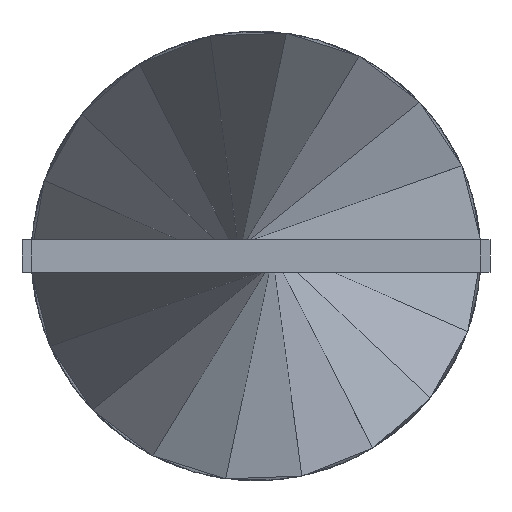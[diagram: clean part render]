
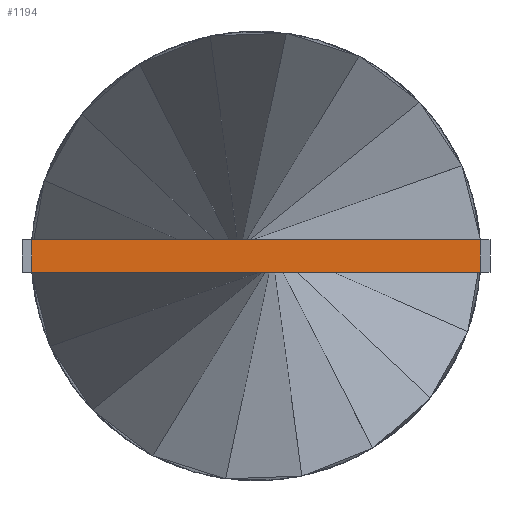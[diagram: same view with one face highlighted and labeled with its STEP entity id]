
A CAD part, front view. The second image highlights one B-rep face of the part: STEP entity #1194.
In plain terms, the highlighted planar face has unit normal (0, -1, 0).
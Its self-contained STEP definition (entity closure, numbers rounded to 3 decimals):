
#168 = CARTESIAN_POINT ( 'NONE',  ( 6.9, 0., 0.5 ) ) ;
#182 = DIRECTION ( 'NONE',  ( 1., 0., 0. ) ) ;
#212 = CARTESIAN_POINT ( 'NONE',  ( -6.9, 0., -0.5 ) ) ;
#222 = DIRECTION ( 'NONE',  ( 1., 0., 0. ) ) ;
#282 = LINE ( 'NONE', #1384, #456 ) ;
#363 = VECTOR ( 'NONE', #1837, 1000. ) ;
#397 = LINE ( 'NONE', #1828, #363 ) ;
#456 = VECTOR ( 'NONE', #222, 1000. ) ;
#485 = CARTESIAN_POINT ( 'NONE',  ( 6.9, 0., -0.5 ) ) ;
#555 = FACE_OUTER_BOUND ( 'NONE', #785, .T. ) ;
#598 = VECTOR ( 'NONE', #182, 1000. ) ;
#604 = LINE ( 'NONE', #1962, #598 ) ;
#615 = LINE ( 'NONE', #1430, #680 ) ;
#680 = VECTOR ( 'NONE', #1958, 1000. ) ;
#733 = EDGE_CURVE ( 'NONE', #1549, #1639, #615, .T. ) ;
#742 = EDGE_CURVE ( 'NONE', #1549, #2083, #604, .T. ) ;
#750 = ORIENTED_EDGE ( 'NONE', *, *, #733, .F. ) ;
#785 = EDGE_LOOP ( 'NONE', ( #1192, #1640, #750, #1784 ) ) ;
#1066 = AXIS2_PLACEMENT_3D ( 'NONE', #1206, #1117, #1109 ) ;
#1109 = DIRECTION ( 'NONE',  ( 0., 0., -1. ) ) ;
#1117 = DIRECTION ( 'NONE',  ( 0., -1., 0. ) ) ;
#1179 = PLANE ( 'NONE',  #1066 ) ;
#1192 = ORIENTED_EDGE ( 'NONE', *, *, #1804, .T. ) ;
#1194 = ADVANCED_FACE ( 'NONE', ( #555 ), #1179, .T. ) ;
#1206 = CARTESIAN_POINT ( 'NONE',  ( -6.9, 0., -0.5 ) ) ;
#1384 = CARTESIAN_POINT ( 'NONE',  ( -6.9, 0., 0.5 ) ) ;
#1430 = CARTESIAN_POINT ( 'NONE',  ( -6.9, 0., -0.5 ) ) ;
#1463 = VERTEX_POINT ( 'NONE', #168 ) ;
#1520 = EDGE_CURVE ( 'NONE', #1639, #1463, #282, .T. ) ;
#1549 = VERTEX_POINT ( 'NONE', #212 ) ;
#1639 = VERTEX_POINT ( 'NONE', #1901 ) ;
#1640 = ORIENTED_EDGE ( 'NONE', *, *, #1520, .F. ) ;
#1784 = ORIENTED_EDGE ( 'NONE', *, *, #742, .T. ) ;
#1804 = EDGE_CURVE ( 'NONE', #2083, #1463, #397, .T. ) ;
#1828 = CARTESIAN_POINT ( 'NONE',  ( 6.9, 0., -0.5 ) ) ;
#1837 = DIRECTION ( 'NONE',  ( 0., 0., 1. ) ) ;
#1901 = CARTESIAN_POINT ( 'NONE',  ( -6.9, 0., 0.5 ) ) ;
#1958 = DIRECTION ( 'NONE',  ( 0., 0., 1. ) ) ;
#1962 = CARTESIAN_POINT ( 'NONE',  ( -6.9, 0., -0.5 ) ) ;
#2083 = VERTEX_POINT ( 'NONE', #485 ) ;
